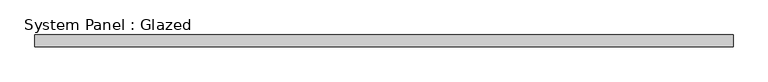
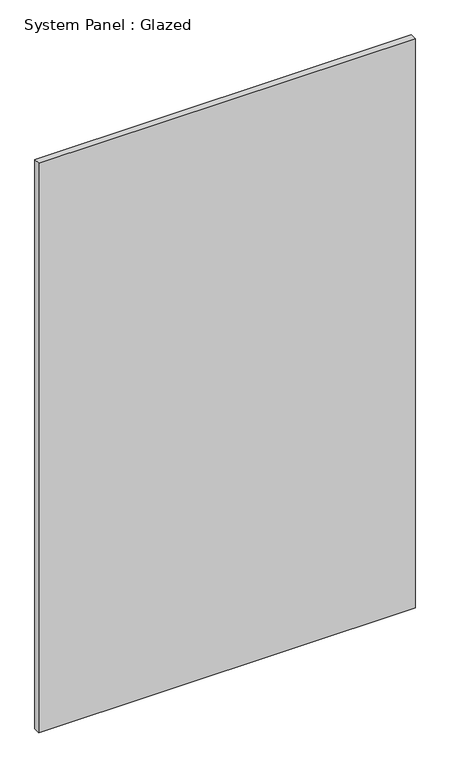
"""IFC4 building model written with IfcOpenShell, lengths in millimetres: plate geometry, System Panel : Glazed."""

from ifc_helpers import new_model, si_unit, origin, origin_with_axes, place, context, project, spatial, polyline, outline, extrude, source, transform, mapped, element, save


def system_panel_glazed_c6855d5e(model_context):
    return source(origin(), model_context, "Body", "SweptSolid", [
        extrude(outline(polyline([(750.0, 24.5), (-750.0, 24.5), (-750.0, 49.5), (750.0, 49.5), (750.0, 24.5)])), origin_with_axes(), (0.0, 0.0, 1.0), 2400.0),
    ])


if __name__ == "__main__":
    model = new_model("IFC4")
    model_context = context("Model", 3, world=origin())
    ifc_project = project(units=[si_unit("LENGTHUNIT", "METRE", prefix="MILLI")], contexts=[model_context])
    site = spatial("IfcSite", under=ifc_project)
    building = spatial("IfcBuilding", under=site)
    placement = place(None, origin())
    system_panel_glazed_shape = system_panel_glazed_c6855d5e(model_context)
    element("IfcPlate", 1, ObjectType="System Panel : Glazed", at=placement, inside=building, context=model_context, shape_type="MappedRepresentation", body=[
        mapped(system_panel_glazed_shape, transform((0.0, 0.0, 0.0), x_axis=(1.0, 0.0, 0.0), y_axis=(0.0, 1.0, 0.0), z_axis=(0.0, 0.0, 1.0))),
    ])
    save(model, "model.ifc")
